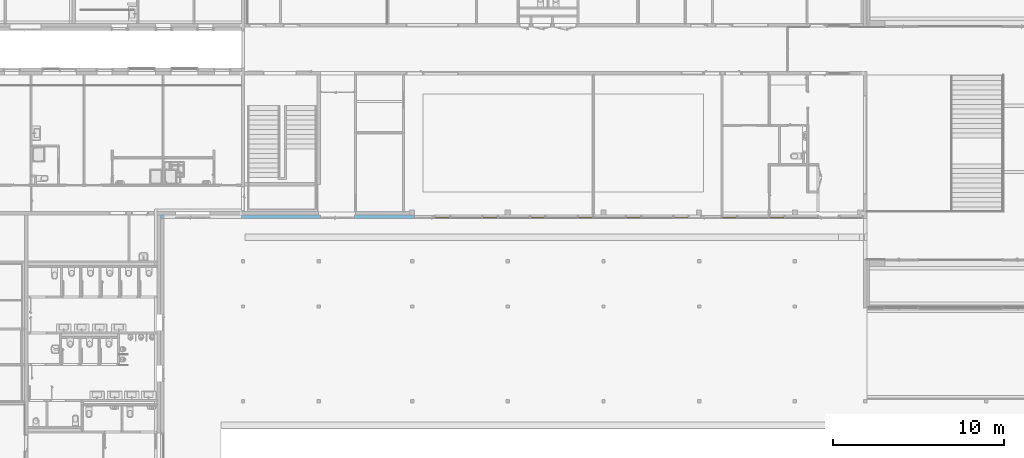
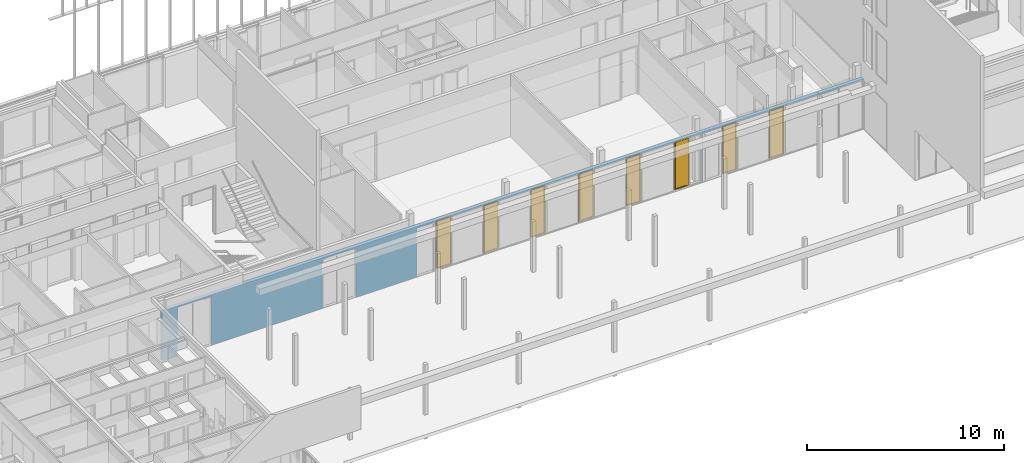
# One storey, part 128 of 240: 8 windows, 16 openings, plus 1 element that does not belong to this part.
"""IFC2X3 building model written with IfcOpenShell, lengths in centimetres."""

from ifc_helpers import new_model, entity, si_unit, converted_unit, derived_unit, direction, frame, frame_2d, origin, origin_2d_with_axis, place, context, subcontext, project, spatial, rectangle, extrude, faceted_brep, source, transform, mapped, material, material_list, layer, layer_set, layer_usage, type_object, type_shapes, element, fill, save


model = new_model("IFC2X3")

# Units and contexts
model_context = context("Model", 3, precision=0.001, world=origin(), true_north=direction((6.12303176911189e-17, 1.0)))
body_context = subcontext(model_context, "Body", "Model", "MODEL_VIEW")
ifc_project = project(units=[si_unit("LENGTHUNIT", "METRE", prefix="CENTI"), si_unit("AREAUNIT", "SQUARE_METRE"), si_unit("VOLUMEUNIT", "CUBIC_METRE"), converted_unit("PLANEANGLEUNIT", "DEGREE", entity("IfcRatioMeasure", 0.0174532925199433), si_unit("PLANEANGLEUNIT", "RADIAN"), dimensions=[0, 0, 0, 0, 0, 0, 0]), si_unit("MASSUNIT", "GRAM", prefix="KILO"), derived_unit("MASSDENSITYUNIT", [(si_unit("MASSUNIT", "GRAM", prefix="KILO"), 1), (si_unit("LENGTHUNIT", "METRE"), -3)]), si_unit("TIMEUNIT", "SECOND"), si_unit("FREQUENCYUNIT", "HERTZ"), si_unit("THERMODYNAMICTEMPERATUREUNIT", "DEGREE_CELSIUS"), derived_unit("THERMALTRANSMITTANCEUNIT", [(si_unit("MASSUNIT", "GRAM", prefix="KILO"), 1), (si_unit("THERMODYNAMICTEMPERATUREUNIT", "KELVIN"), -1), (si_unit("TIMEUNIT", "SECOND"), -3)]), derived_unit("VOLUMETRICFLOWRATEUNIT", [(si_unit("LENGTHUNIT", "METRE"), 3), (si_unit("TIMEUNIT", "SECOND"), -1)]), si_unit("ELECTRICCURRENTUNIT", "AMPERE"), si_unit("ELECTRICVOLTAGEUNIT", "VOLT"), si_unit("POWERUNIT", "WATT"), si_unit("FORCEUNIT", "NEWTON", prefix="KILO"), si_unit("ILLUMINANCEUNIT", "LUX"), si_unit("LUMINOUSFLUXUNIT", "LUMEN"), si_unit("LUMINOUSINTENSITYUNIT", "CANDELA"), derived_unit("USERDEFINED", [(si_unit("MASSUNIT", "GRAM", prefix="KILO"), -1), (si_unit("LENGTHUNIT", "METRE"), -2), (si_unit("TIMEUNIT", "SECOND"), 3), (si_unit("LUMINOUSFLUXUNIT", "LUMEN"), 1)]), derived_unit("LINEARVELOCITYUNIT", [(si_unit("LENGTHUNIT", "METRE"), 1), (si_unit("TIMEUNIT", "SECOND"), -1)]), si_unit("PRESSUREUNIT", "PASCAL"), derived_unit("USERDEFINED", [(si_unit("LENGTHUNIT", "METRE"), -2), (si_unit("MASSUNIT", "GRAM", prefix="KILO"), 1), (si_unit("TIMEUNIT", "SECOND"), -2)])], contexts=[model_context])

# Site, building, storey
site_placement = place(None, frame((-2781.94577612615, 7442.24238424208, 0.0)))
site = spatial("IfcSite", under=ifc_project, at=site_placement, Name="Default", CompositionType="ELEMENT")
building_placement = place(site_placement, origin())
building = spatial("IfcBuilding", under=site, at=building_placement, CompositionType="ELEMENT")
storey_placement = place(building_placement, origin())
storey = spatial("IfcBuildingStorey", under=building, at=storey_placement, Name="N00 - COO", CompositionType="ELEMENT", Elevation=0.0)

# Wall, openings, windows
ifc_material_1 = material(Name="Aluminium bardage")
ifc_layer_1 = layer(ifc_material_1, 0.5)
ifc_material_2 = material(Name="01 - Lame d'air")
ifc_layer_2 = layer(ifc_material_2, 1.5)
ifc_material_3 = material(Name="00 - Isolant")
ifc_layer_3 = layer(ifc_material_3, 18.0)
ifc_layer_set = layer_set([ifc_layer_1, ifc_layer_2, ifc_layer_3], Name="Mur de base:04 - Parement - ITE 18cm + vide 2cm")
ifc_layer_usage = layer_usage(ifc_layer_set, "AXIS2", "POSITIVE", -10.0)
wall_type = type_object("IfcWallType", Name="Mur de base:04 - Parement - ITE 18cm + vide 2cm", PredefinedType="STANDARD", material=ifc_layer_set)
wall_placement = place(building_placement, frame((-8901.93218005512, -1940.07903364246, 0.0)))
wall = element("IfcWallStandardCase", 1, at=wall_placement, inside=storey, type_object=wall_type, material=ifc_layer_usage, Name="Mur de base:04 - Parement - ITE 18cm + vide 2cm", ObjectType="Mur de base:04 - Parement - ITE 18cm + vide 2cm", context=body_context, shape_type="SweptSolid", body=[
    extrude(rectangle(XDim=4113.93230245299, YDim=20.0000000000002, at=frame_2d((2056.9661512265, -3.01980662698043e-14), x_axis=(-1.0, 0.0))), origin(), (0.0, 0.0, 1.0), 313.0),
])
opening_1_placement = place(wall_placement, origin())
element("IfcOpeningElement", 2, at=opening_1_placement, cuts=wall, Name="Mur de base:04 - Parement - ITE 18cm + vide 2cm", ObjectType="Opening", context=body_context, shape_type="SweptSolid", body=[
    extrude(rectangle(XDim=311.0, YDim=1565.0, at=frame_2d((4.54747350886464e-13, 0.0), x_axis=(0.0, 1.0))), frame((2384.93230242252, -25.2399999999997, 155.5), z_axis=(0.0, 1.0, 0.0), x_axis=(-1.0, 0.0, 0.0)), (0.0, 0.0, 1.0), 50.4799999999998),
])
opening_2_placement = place(wall_placement, origin())
element("IfcOpeningElement", 3, at=opening_2_placement, cuts=wall, Name="Mur de base:04 - Parement - ITE 18cm + vide 2cm", ObjectType="Opening", context=body_context, shape_type="SweptSolid", body=[
    extrude(rectangle(XDim=311.0, YDim=146.519999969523, at=frame_2d((4.33431068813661e-13, 0.0), x_axis=(0.0, 1.0))), frame((4040.67230246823, -25.2399999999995, 155.5), z_axis=(0.0, 1.0, 0.0), x_axis=(-1.0, 0.0, 0.0)), (0.0, 0.0, 1.0), 50.4799999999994),
])
opening_3_placement = place(wall_placement, origin())
element("IfcOpeningElement", 4, at=opening_3_placement, cuts=wall, Name="Mur de base:04 - Parement - ITE 18cm + vide 2cm", ObjectType="Opening", context=body_context, shape_type="SweptSolid", body=[
    extrude(rectangle(XDim=311.0, YDim=570.0, at=frame_2d((-8.5265128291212e-13, 0.0), x_axis=(0.0, 1.0))), frame((3567.43230245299, -25.2399999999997, 155.5), z_axis=(0.0, 1.0, 0.0), x_axis=(-1.0, 0.0, 0.0)), (0.0, 0.0, 1.0), 50.4799999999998),
])
opening_4_placement = place(wall_placement, frame((8901.93218005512, 1940.07903364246, 0.0)))
element("IfcOpeningElement", 5, at=opening_4_placement, cuts=wall, Name="Mur de base:04 - Parement - ITE 18cm + vide 2cm", ObjectType="Opening", context=body_context, shape_type="SweptSolid", body=[
    extrude(rectangle(XDim=321.0, YDim=200.0, at=origin_2d_with_axis()), frame((-8713.98738089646, -1950.17903364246, 144.5), z_axis=(0.0, 1.0, 0.0), x_axis=(0.0, 0.0, -1.0)), (0.0, 0.0, 1.0), 60.117531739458),
])
opening_5_placement = place(wall_placement, frame((8901.93218005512, 1940.07903364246, 0.0)))
element("IfcOpeningElement", 6, at=opening_5_placement, cuts=wall, Name="Mur de base:04 - Parement - ITE 18cm + vide 2cm", ObjectType="Opening", context=body_context, shape_type="SweptSolid", body=[
    extrude(rectangle(XDim=321.0, YDim=200.0, at=origin_2d_with_axis()), frame((-7866.49987760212, -1950.17903364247, 145.5), z_axis=(0.0, 1.0, 0.0), x_axis=(0.0, 0.0, -1.0)), (0.0, 0.0, 1.0), 60.117531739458),
])
opening_6_placement = place(wall_placement, frame((3852.43230245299, -10.1000000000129, -16.0)))
element("IfcOpeningElement", 7, at=opening_6_placement, cuts=wall, Name="Mur de base:04 - Parement - ITE 18cm + vide 2cm", ObjectType="Opening", context=body_context, shape_type="Brep", body=[
    faceted_brep([(2.0, 0.0, 319.0), (2.0, 0.0, 0.0), (113.0, 0.0, 0.0), (113.0, 0.0, 319.0), (2.0, 1.30000000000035, 319.0), (2.0, 1.30000000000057, 0.0), (0.0, 1.30000000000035, 0.0), (0.0, 61.3000000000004, 0.0), (115.0, 61.3000000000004, 0.0), (115.0, 1.30000000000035, 0.0), (113.0, 1.30000000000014, 0.0), (113.0, 1.30000000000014, 319.0), (115.0, 61.3000000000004, 321.0), (0.0, 61.3000000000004, 321.0), (115.0, 1.30000000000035, 321.0), (0.0, 1.30000000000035, 321.0)], [[[0, 1, 2, 3]], [[1, 0, 4, 5]], [[2, 1, 5, 6, 7, 8, 9, 10]], [[3, 2, 10, 11]], [[0, 3, 11, 4]], [[12, 8, 7, 13]], [[14, 15, 6, 5, 4, 11, 10, 9]], [[8, 12, 14, 9]], [[13, 7, 6, 15]], [[12, 13, 15, 14]]]),
])
opening_7_placement = place(wall_placement, frame((1487.43213839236, -10.1000000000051, -15.0)))
element("IfcOpeningElement", 8, at=opening_7_placement, cuts=wall, Name="Mur de base:04 - Parement - ITE 18cm + vide 2cm", ObjectType="Opening", context=body_context, shape_type="Brep", body=[
    faceted_brep([(113.0, 0.0, 319.0), (2.0, 0.0, 319.0), (2.0, 0.0, 0.0), (113.0, 0.0, 0.0), (113.0, 1.29999999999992, 0.0), (113.0, 1.30000000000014, 319.0), (2.0, 1.30000000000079, 0.0), (0.0, 1.30000000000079, 0.0), (0.0, 61.3000000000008, 0.0), (115.0, 61.2999999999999, 0.0), (115.0, 1.30000000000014, 0.0), (2.0, 1.30000000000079, 319.0), (0.0, 61.3000000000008, 321.0), (115.0, 61.3000000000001, 321.0), (0.0, 1.30000000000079, 321.0), (115.0, 1.30000000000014, 321.0)], [[[0, 1, 2, 3]], [[3, 4, 5, 0]], [[2, 6, 7, 8, 9, 10, 4, 3]], [[1, 11, 6, 2]], [[0, 5, 11, 1]], [[12, 13, 9, 8]], [[14, 7, 6, 11, 5, 4, 10, 15]], [[8, 7, 14, 12]], [[13, 15, 10, 9]], [[12, 14, 15, 13]]]),
])
opening_8_placement = place(wall_placement, frame((3167.43230242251, -10.1000000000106, -15.0)))
element("IfcOpeningElement", 9, at=opening_8_placement, cuts=wall, Name="Mur de base:04 - Parement - ITE 18cm + vide 2cm", ObjectType="Opening", context=body_context, shape_type="Brep", body=[
    faceted_brep([(2.0, 0.0, 319.0), (2.0, 0.0, 0.0), (113.0, 0.0, 0.0), (113.0, 0.0, 319.0), (2.0, 1.30000000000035, 319.0), (2.0, 1.30000000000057, 0.0), (0.0, 1.30000000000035, 0.0), (0.0, 61.3000000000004, 0.0), (115.0, 61.3000000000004, 0.0), (115.0, 1.30000000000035, 0.0), (113.0, 1.30000000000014, 0.0), (113.0, 1.30000000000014, 319.0), (115.0, 61.3000000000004, 321.0), (0.0, 61.3000000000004, 321.0), (115.0, 1.30000000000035, 321.0), (0.0, 1.30000000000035, 321.0)], [[[0, 1, 2, 3]], [[1, 0, 4, 5]], [[2, 1, 5, 6, 7, 8, 9, 10]], [[3, 2, 10, 11]], [[0, 3, 11, 4]], [[12, 8, 7, 13]], [[14, 15, 6, 5, 4, 11, 10, 9]], [[8, 12, 14, 9]], [[13, 7, 6, 15]], [[12, 13, 15, 14]]]),
])
opening_9_placement = place(wall_placement, frame((1692.43230242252, 10.0, 6.5)))
opening_9 = element("IfcOpeningElement", 10, at=opening_9_placement, cuts=wall, Name="Ouvrant vitré:Ouvrant vitré (90cm) RDC:1", ObjectType="Opening", context=body_context, shape_type="SweptSolid", body=[
    extrude(rectangle(XDim=299.5, YDim=83.5000000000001, at=frame_2d((149.75, 41.75), x_axis=(1.0, 0.0))), frame((0.0, 0.0, 0.0), z_axis=(0.0, -1.0, 0.0), x_axis=(0.0, 0.0, 1.0)), (0.0, 0.0, 1.0), 20.0),
])
opening_10_placement = place(wall_placement, frame((1969.18230245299, 10.0, 6.5)))
opening_10 = element("IfcOpeningElement", 11, at=opening_10_placement, cuts=wall, Name="Ouvrant vitré:Ouvrant vitré (90cm) RDC:1", ObjectType="Opening", context=body_context, shape_type="SweptSolid", body=[
    extrude(rectangle(XDim=299.5, YDim=83.5000000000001, at=frame_2d((149.75, 41.75), x_axis=(1.0, 0.0))), frame((0.0, 0.0, 0.0), z_axis=(0.0, -1.0, 0.0), x_axis=(0.0, 0.0, 1.0)), (0.0, 0.0, 1.0), 20.0),
])
opening_11_placement = place(wall_placement, frame((2249.18230245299, 10.0, 6.5)))
opening_11 = element("IfcOpeningElement", 12, at=opening_11_placement, cuts=wall, Name="Ouvrant vitré:Ouvrant vitré (90cm) RDC:1", ObjectType="Opening", context=body_context, shape_type="SweptSolid", body=[
    extrude(rectangle(XDim=299.5, YDim=83.5000000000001, at=frame_2d((149.75, 41.75), x_axis=(1.0, 0.0))), frame((0.0, 0.0, 0.0), z_axis=(0.0, -1.0, 0.0), x_axis=(0.0, 0.0, 1.0)), (0.0, 0.0, 1.0), 20.0),
])
opening_12_placement = place(wall_placement, frame((2529.18230245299, 10.0, 6.5)))
opening_12 = element("IfcOpeningElement", 13, at=opening_12_placement, cuts=wall, Name="Ouvrant vitré:Ouvrant vitré (90cm) RDC:1", ObjectType="Opening", context=body_context, shape_type="SweptSolid", body=[
    extrude(rectangle(XDim=299.5, YDim=83.5000000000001, at=frame_2d((149.75, 41.75), x_axis=(1.0, 0.0))), frame((0.0, 0.0, 0.0), z_axis=(0.0, -1.0, 0.0), x_axis=(0.0, 0.0, 1.0)), (0.0, 0.0, 1.0), 20.0),
])
opening_13_placement = place(wall_placement, frame((2809.18230245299, 10.0, 6.5)))
opening_13 = element("IfcOpeningElement", 14, at=opening_13_placement, cuts=wall, Name="Ouvrant vitré:Ouvrant vitré (90cm) RDC:1", ObjectType="Opening", context=body_context, shape_type="SweptSolid", body=[
    extrude(rectangle(XDim=299.5, YDim=83.5000000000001, at=frame_2d((149.75, 41.75), x_axis=(1.0, 0.0))), frame((0.0, 0.0, 0.0), z_axis=(0.0, -1.0, 0.0), x_axis=(0.0, 0.0, 1.0)), (0.0, 0.0, 1.0), 20.0),
])
opening_14_placement = place(wall_placement, frame((3089.18230245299, 10.0, 6.5)))
opening_14 = element("IfcOpeningElement", 15, at=opening_14_placement, cuts=wall, Name="Ouvrant vitré:Ouvrant vitré (90cm) RDC:1", ObjectType="Opening", context=body_context, shape_type="SweptSolid", body=[
    extrude(rectangle(XDim=299.5, YDim=83.5000000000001, at=frame_2d((149.75, 41.75), x_axis=(1.0, 0.0))), frame((0.0, 0.0, 0.0), z_axis=(0.0, -1.0, 0.0), x_axis=(0.0, 0.0, 1.0)), (0.0, 0.0, 1.0), 20.0),
])
opening_15_placement = place(wall_placement, frame((3372.43230245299, 10.0, 6.5)))
opening_15 = element("IfcOpeningElement", 16, at=opening_15_placement, cuts=wall, Name="Ouvrant vitré:Ouvrant vitré (90cm) RDC:1", ObjectType="Opening", context=body_context, shape_type="SweptSolid", body=[
    extrude(rectangle(XDim=299.5, YDim=83.5000000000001, at=frame_2d((149.75, 41.75), x_axis=(1.0, 0.0))), frame((0.0, 0.0, 0.0), z_axis=(0.0, -1.0, 0.0), x_axis=(0.0, 0.0, 1.0)), (0.0, 0.0, 1.0), 20.0),
])
opening_16_placement = place(wall_placement, frame((3649.18230248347, 10.0, 6.5)))
opening_16 = element("IfcOpeningElement", 17, at=opening_16_placement, cuts=wall, Name="Ouvrant vitré:Ouvrant vitré (90cm) RDC:1", ObjectType="Opening", context=body_context, shape_type="SweptSolid", body=[
    extrude(rectangle(XDim=299.5, YDim=83.5000000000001, at=frame_2d((149.75, 41.75), x_axis=(1.0, 0.0))), frame((0.0, 0.0, 0.0), z_axis=(0.0, -1.0, 0.0), x_axis=(0.0, 0.0, 1.0)), (0.0, 0.0, 1.0), 20.0),
])
ifc_material_4 = material(Name="Verre")
ifc_material_5 = material(Name="Aluminium")
ifc_material_list_1 = material_list([ifc_material_4, ifc_material_5])
ifc_material_list_2 = material_list([ifc_material_4, ifc_material_5])
window_style_1 = type_object("IfcWindowStyle", Name="Ouvrant vitré (90cm) RDC", ConstructionType="NOTDEFINED", OperationType="NOTDEFINED", ParameterTakesPrecedence=False, Sizeable=False, material=ifc_material_list_2)
shared_shape_1 = source(origin(), body_context, "Body", "Brep", [
    faceted_brep([(6.50000000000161, 15.2499999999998, 293.0), (77.0, 15.2500000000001, 293.0), (77.0, 15.2500000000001, 6.49999999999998), (6.50000000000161, 15.2499999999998, 6.49999999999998), (6.50000000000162, 13.2499999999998, 6.49999999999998), (6.50000000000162, 13.2499999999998, 293.0), (77.0, 13.2500000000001, 6.49999999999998), (77.0, 13.2500000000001, 293.0)], [[[0, 1, 2, 3]], [[3, 4, 5, 0]], [[2, 6, 4, 3]], [[1, 7, 6, 2]], [[5, 4, 6, 7]], [[0, 5, 7, 1]]]),
    faceted_brep([(6.50000000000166, 13.4999999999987, 293.0), (6.50000000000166, 13.4999999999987, 6.50000000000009), (77.0, 13.499999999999, 6.50000000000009), (77.0, 13.499999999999, 293.0), (3.50000000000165, 13.4999999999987, 296.0), (80.0, 13.499999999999, 296.0), (80.0, 13.499999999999, 3.50000000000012), (3.50000000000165, 13.4999999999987, 3.50000000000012), (3.50000000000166, 10.0, 3.50000000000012), (3.50000000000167, 10.0, 296.0), (80.0, 10.0, 3.50000000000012), (80.0, 10.0, 296.0), (77.0, 10.0, 6.50000000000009), (77.0, 10.0, 293.0), (6.50000000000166, 10.0, 6.50000000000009), (6.50000000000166, 10.0, 293.0)], [[[0, 1, 2, 3], [4, 5, 6, 7]], [[7, 8, 9, 4]], [[6, 10, 8, 7]], [[5, 11, 10, 6]], [[2, 12, 13, 3]], [[1, 14, 12, 2]], [[0, 15, 14, 1]], [[9, 8, 10, 11], [15, 13, 12, 14]], [[4, 9, 11, 5]], [[3, 13, 15, 0]]], outer=[[False, True], [True], [True], [True], [True], [True], [True], [True, False], [True], [True]]),
    faceted_brep([(5.0, 13.5, 294.5), (5.0, 13.5, 5.0), (5.0, 15.0, 5.0), (5.0, 15.0, 294.5), (78.5000000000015, 15.0, 5.0), (78.5000000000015, 15.0, 294.5), (0.0, 15.0, 0.0), (0.0, 15.0, 299.5), (83.5000000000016, 15.0, 299.5), (83.5000000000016, 15.0, 0.0), (78.5000000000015, 13.5000000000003, 5.0), (78.5000000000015, 13.5000000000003, 294.5), (3.50000000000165, 13.5, 296.0), (3.50000000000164, 13.5, 3.50000000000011), (80.0, 13.5000000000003, 3.50000000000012), (80.0, 13.5000000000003, 296.0), (3.50000000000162, 10.0, 296.0), (3.50000000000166, 10.0, 3.50000000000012), (80.0, 10.0, 3.50000000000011), (80.0, 10.0, 296.0), (0.0, 10.0, 299.5), (0.0, 10.0, 0.0), (83.5000000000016, 10.0, 0.0), (83.5000000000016, 10.0, 299.5)], [[[0, 1, 2, 3]], [[3, 2, 4, 5], [6, 7, 8, 9]], [[1, 10, 4, 2]], [[1, 0, 11, 10], [12, 13, 14, 15]], [[16, 17, 13, 12]], [[17, 18, 14, 13]], [[17, 16, 19, 18], [20, 21, 22, 23]], [[7, 6, 21, 20]], [[6, 9, 22, 21]], [[10, 11, 5, 4]], [[18, 19, 15, 14]], [[9, 8, 23, 22]], [[11, 0, 3, 5]], [[19, 16, 12, 15]], [[8, 7, 20, 23]]], outer=[[True], [False, True], [True], [False, True], [True], [True], [False, True], [True], [True], [True], [True], [True], [True], [True], [True]]),
])
type_shapes(window_style_1, [shared_shape_1])
window_1_placement = place(opening_15_placement, frame((0.0, 0.0, 0.0), z_axis=(0.0, 0.0, 1.0), x_axis=(-1.0, 0.0, 0.0)))
window_1 = element("IfcWindow", 18, at=window_1_placement, inside=storey, type_object=window_style_1, material=ifc_material_list_1, Name="Ouvrant vitré:Ouvrant vitré (90cm) RDC", ObjectType="Ouvrant vitré:Ouvrant vitré (90cm) RDC", OverallHeight=299.5, OverallWidth=83.5000000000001, context=body_context, shape_type="MappedRepresentation", body=[
    mapped(shared_shape_1, transform((0.0, 0.0, 0.0), scale=1.0)),
])
fill(opening_15, window_1)
ifc_material_list_3 = material_list([ifc_material_4, ifc_material_5])
window_2_placement = place(opening_16_placement, frame((0.0, 0.0, 0.0), z_axis=(0.0, 0.0, 1.0), x_axis=(-1.0, 0.0, 0.0)))
window_2 = element("IfcWindow", 19, at=window_2_placement, inside=storey, type_object=window_style_1, material=ifc_material_list_3, Name="Ouvrant vitré:Ouvrant vitré (90cm) RDC", ObjectType="Ouvrant vitré:Ouvrant vitré (90cm) RDC", OverallHeight=299.5, OverallWidth=83.5000000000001, context=body_context, shape_type="MappedRepresentation", body=[
    mapped(shared_shape_1, transform((0.0, 0.0, 0.0), scale=1.0)),
])
fill(opening_16, window_2)
ifc_material_list_4 = material_list([ifc_material_4, ifc_material_5])
window_3_placement = place(opening_11_placement, frame((0.0, 0.0, 0.0), z_axis=(0.0, 0.0, 1.0), x_axis=(-1.0, 0.0, 0.0)))
window_3 = element("IfcWindow", 20, at=window_3_placement, inside=storey, type_object=window_style_1, material=ifc_material_list_4, Name="Ouvrant vitré:Ouvrant vitré (90cm) RDC", ObjectType="Ouvrant vitré:Ouvrant vitré (90cm) RDC", OverallHeight=299.5, OverallWidth=83.5000000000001, context=body_context, shape_type="MappedRepresentation", body=[
    mapped(shared_shape_1, transform((0.0, 0.0, 0.0), scale=1.0)),
])
fill(opening_11, window_3)
ifc_material_list_5 = material_list([ifc_material_4, ifc_material_5])
window_4_placement = place(opening_12_placement, frame((0.0, 0.0, 0.0), z_axis=(0.0, 0.0, 1.0), x_axis=(-1.0, 0.0, 0.0)))
window_4 = element("IfcWindow", 21, at=window_4_placement, inside=storey, type_object=window_style_1, material=ifc_material_list_5, Name="Ouvrant vitré:Ouvrant vitré (90cm) RDC", ObjectType="Ouvrant vitré:Ouvrant vitré (90cm) RDC", OverallHeight=299.5, OverallWidth=83.5000000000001, context=body_context, shape_type="MappedRepresentation", body=[
    mapped(shared_shape_1, transform((0.0, 0.0, 0.0), scale=1.0)),
])
fill(opening_12, window_4)
ifc_material_list_6 = material_list([ifc_material_4, ifc_material_5])
ifc_material_list_7 = material_list([ifc_material_4, ifc_material_5])
window_style_2 = type_object("IfcWindowStyle", Name="Ouvrant vitré (90cm) RDC", ConstructionType="NOTDEFINED", OperationType="NOTDEFINED", ParameterTakesPrecedence=False, Sizeable=False, material=ifc_material_list_7)
shared_shape_2 = source(origin(), body_context, "Body", "Brep", [
    faceted_brep([(77.0, 15.2499999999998, 293.0), (77.0, 15.2499999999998, 6.49999999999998), (6.50000000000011, 15.2500000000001, 6.49999999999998), (6.50000000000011, 15.2500000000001, 293.0), (77.0, 13.2499999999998, 293.0), (77.0, 13.2499999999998, 6.49999999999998), (6.50000000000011, 13.2500000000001, 6.49999999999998), (6.50000000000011, 13.2500000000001, 293.0)], [[[0, 1, 2, 3]], [[1, 0, 4, 5]], [[2, 1, 5, 6]], [[3, 2, 6, 7]], [[4, 7, 6, 5]], [[0, 3, 7, 4]]]),
    faceted_brep([(80.0, 13.4999999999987, 296.0), (80.0, 13.4999999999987, 3.50000000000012), (3.50000000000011, 13.499999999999, 3.50000000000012), (3.50000000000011, 13.499999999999, 296.0), (77.0, 13.4999999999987, 293.0), (6.50000000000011, 13.499999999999, 293.0), (6.50000000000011, 13.499999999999, 6.50000000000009), (77.0, 13.4999999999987, 6.50000000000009), (80.0, 10.0, 296.0), (80.0, 10.0, 3.50000000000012), (3.5000000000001, 10.0, 3.50000000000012), (3.5000000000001, 10.0, 296.0), (6.50000000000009, 10.0, 293.0), (6.50000000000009, 10.0, 6.50000000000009), (77.0, 10.0, 6.50000000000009), (77.0, 10.0, 293.0)], [[[0, 1, 2, 3], [4, 5, 6, 7]], [[1, 0, 8, 9]], [[2, 1, 9, 10]], [[3, 2, 10, 11]], [[6, 5, 12, 13]], [[7, 6, 13, 14]], [[4, 7, 14, 15]], [[15, 14, 13, 12], [8, 11, 10, 9]], [[0, 3, 11, 8]], [[5, 4, 15, 12]]], outer=[[True, False], [True], [True], [True], [True], [True], [True], [False, True], [True], [True]]),
    faceted_brep([(78.5, 13.5, 294.5), (78.5, 15.0, 294.5), (78.5, 15.0, 5.0), (78.4999999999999, 13.5, 5.0), (83.5, 15.0, 0.0), (0.0, 15.0, 0.0), (0.0, 15.0, 299.5), (83.5, 15.0, 299.5), (5.0, 15.0, 294.5), (5.0, 15.0, 5.0), (5.0, 13.5000000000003, 5.0), (5.0, 13.5000000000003, 294.5), (80.0, 13.5, 296.0), (3.5000000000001, 13.5000000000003, 296.0), (3.5000000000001, 13.5000000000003, 3.50000000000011), (80.0, 13.5, 3.50000000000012), (80.0, 10.0, 296.0), (80.0, 10.0, 3.50000000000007), (3.50000000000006, 10.0, 3.50000000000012), (3.50000000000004, 10.0, 296.0), (83.5, 10.0, 299.5), (0.0, 10.0, 299.5), (0.0, 10.0, 0.0), (83.5, 10.0, 0.0)], [[[0, 1, 2, 3]], [[4, 5, 6, 7], [1, 8, 9, 2]], [[3, 2, 9, 10]], [[3, 10, 11, 0], [12, 13, 14, 15]], [[16, 12, 15, 17]], [[17, 15, 14, 18]], [[17, 18, 19, 16], [20, 21, 22, 23]], [[7, 20, 23, 4]], [[4, 23, 22, 5]], [[10, 9, 8, 11]], [[18, 14, 13, 19]], [[5, 22, 21, 6]], [[11, 8, 1, 0]], [[19, 13, 12, 16]], [[6, 21, 20, 7]]], outer=[[True], [True, False], [True], [False, True], [True], [True], [False, True], [True], [True], [True], [True], [True], [True], [True], [True]]),
])
type_shapes(window_style_2, [shared_shape_2])
window_5_placement = place(opening_13_placement, frame((0.0, 0.0, 0.0), z_axis=(0.0, 0.0, 1.0), x_axis=(-1.0, 0.0, 0.0)))
window_5 = element("IfcWindow", 22, at=window_5_placement, inside=storey, type_object=window_style_2, material=ifc_material_list_6, Name="Ouvrant vitré:Ouvrant vitré (90cm) RDC", ObjectType="Ouvrant vitré:Ouvrant vitré (90cm) RDC", OverallHeight=299.5, OverallWidth=83.5000000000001, context=body_context, shape_type="MappedRepresentation", body=[
    mapped(shared_shape_2, transform((0.0, 0.0, 0.0), scale=1.0)),
])
fill(opening_13, window_5)
ifc_material_list_8 = material_list([ifc_material_4, ifc_material_5])
window_6_placement = place(opening_10_placement, frame((0.0, 0.0, 0.0), z_axis=(0.0, 0.0, 1.0), x_axis=(-1.0, 0.0, 0.0)))
window_6 = element("IfcWindow", 23, at=window_6_placement, inside=storey, type_object=window_style_2, material=ifc_material_list_8, Name="Ouvrant vitré:Ouvrant vitré (90cm) RDC", ObjectType="Ouvrant vitré:Ouvrant vitré (90cm) RDC", OverallHeight=299.5, OverallWidth=83.5000000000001, context=body_context, shape_type="MappedRepresentation", body=[
    mapped(shared_shape_2, transform((0.0, 0.0, 0.0), scale=1.0)),
])
fill(opening_10, window_6)
ifc_material_list_9 = material_list([ifc_material_4, ifc_material_5])
window_7_placement = place(opening_9_placement, frame((0.0, 0.0, 0.0), z_axis=(0.0, 0.0, 1.0), x_axis=(-1.0, 0.0, 0.0)))
window_7 = element("IfcWindow", 24, at=window_7_placement, inside=storey, type_object=window_style_2, material=ifc_material_list_9, Name="Ouvrant vitré:Ouvrant vitré (90cm) RDC", ObjectType="Ouvrant vitré:Ouvrant vitré (90cm) RDC", OverallHeight=299.5, OverallWidth=83.5000000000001, context=body_context, shape_type="MappedRepresentation", body=[
    mapped(shared_shape_2, transform((0.0, 0.0, 0.0), scale=1.0)),
])
fill(opening_9, window_7)
ifc_material_list_10 = material_list([ifc_material_4, ifc_material_5])
window_8_placement = place(opening_14_placement, frame((0.0, 0.0, 0.0), z_axis=(0.0, 0.0, 1.0), x_axis=(-1.0, 0.0, 0.0)))
window_8 = element("IfcWindow", 25, at=window_8_placement, inside=storey, type_object=window_style_2, material=ifc_material_list_10, Name="Ouvrant vitré:Ouvrant vitré (90cm) RDC", ObjectType="Ouvrant vitré:Ouvrant vitré (90cm) RDC", OverallHeight=299.5, OverallWidth=83.5000000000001, context=body_context, shape_type="MappedRepresentation", body=[
    mapped(shared_shape_2, transform((0.0, 0.0, 0.0), scale=1.0)),
])
fill(opening_14, window_8)

save(model, "model.ifc")
